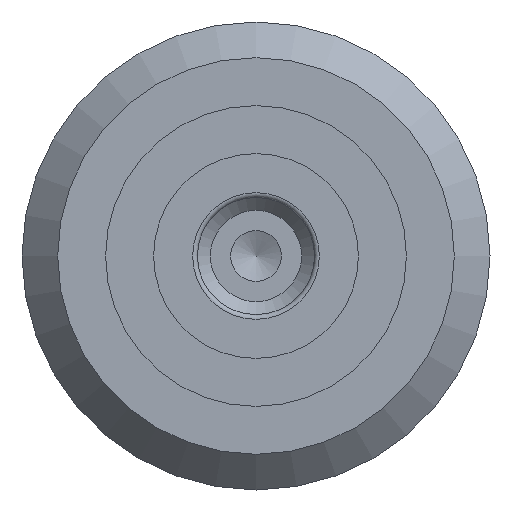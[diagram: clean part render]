
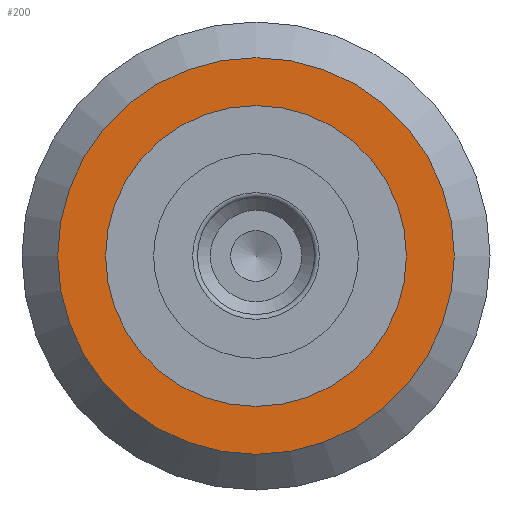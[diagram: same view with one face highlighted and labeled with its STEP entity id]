
A CAD part, left-side view. The second image highlights one B-rep face of the part: STEP entity #200.
In plain terms, the highlighted planar face has unit normal (-1, 0, 0).
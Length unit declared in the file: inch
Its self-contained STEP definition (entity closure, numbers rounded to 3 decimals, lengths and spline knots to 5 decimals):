
#200 = ADVANCED_FACE( '', ( #426, #427 ), #428, .T. );
#426 = FACE_BOUND( '', #677, .T. );
#427 = FACE_OUTER_BOUND( '', #678, .T. );
#428 = PLANE( '', #679 );
#677 = EDGE_LOOP( '', ( #1013 ) );
#678 = EDGE_LOOP( '', ( #1014 ) );
#679 = AXIS2_PLACEMENT_3D( '', #1015, #1016, #1017 );
#1013 = ORIENTED_EDGE( '', *, *, #1317, .T. );
#1014 = ORIENTED_EDGE( '', *, *, #1315, .F. );
#1015 = CARTESIAN_POINT( '', ( -0.375, 1., 0. ) );
#1016 = DIRECTION( '', ( -1., 0., 0. ) );
#1017 = DIRECTION( '', ( 0., 0., 1. ) );
#1315 = EDGE_CURVE( '', #1523, #1523, #1524, .T. );
#1317 = EDGE_CURVE( '', #1526, #1526, #1527, .T. );
#1523 = VERTEX_POINT( '', #1835 );
#1524 = CIRCLE( '', #1836, 1. );
#1526 = VERTEX_POINT( '', #1838 );
#1527 = CIRCLE( '', #1839, 0.75825 );
#1835 = CARTESIAN_POINT( '', ( -0.375, 0., -1. ) );
#1836 = AXIS2_PLACEMENT_3D( '', #2092, #2093, #2094 );
#1838 = CARTESIAN_POINT( '', ( -0.375, 0., -0.75825 ) );
#1839 = AXIS2_PLACEMENT_3D( '', #2095, #2096, #2097 );
#2092 = CARTESIAN_POINT( '', ( -0.375, 0., 0. ) );
#2093 = DIRECTION( '', ( 1., 0., 0. ) );
#2094 = DIRECTION( '', ( 0., 0., -1. ) );
#2095 = CARTESIAN_POINT( '', ( -0.375, 0., 0. ) );
#2096 = DIRECTION( '', ( 1., 0., 0. ) );
#2097 = DIRECTION( '', ( 0., 0., -1. ) );
